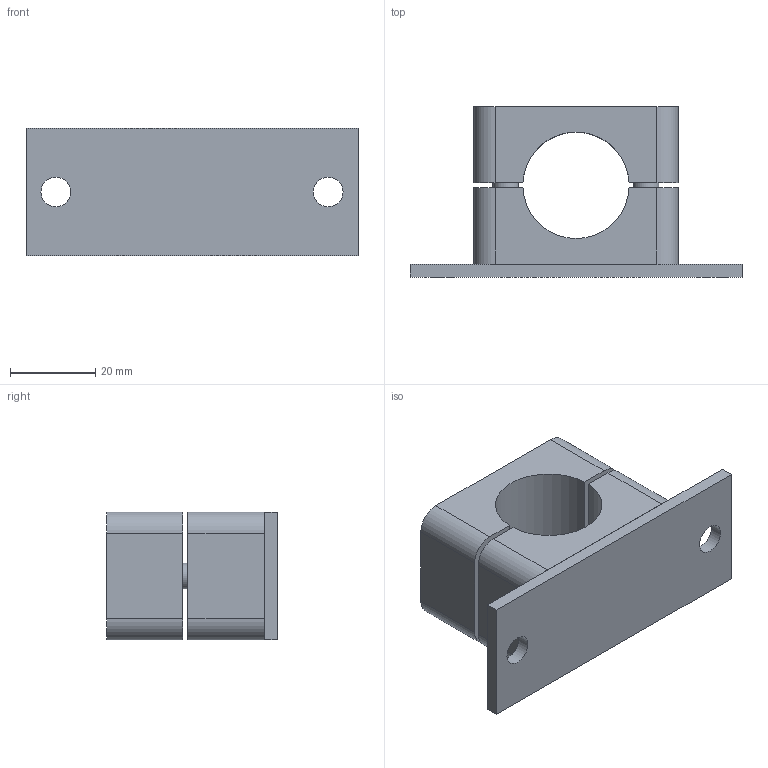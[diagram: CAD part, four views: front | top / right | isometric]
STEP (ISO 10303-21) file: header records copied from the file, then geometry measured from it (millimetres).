
FILE_DESCRIPTION(('HOOPS Exchange Step'),'2;1');
FILE_NAME('/private/var/mobile/Containers/Data/Application/1606885C-1F6A-4C16-ADE5-2EBBFD4A2795/tmp/export/temp_export','2024-08-12T09:10:00+02:00',('mobile'),('Shapr3D Limited'),'HOOPS Exchange 2024.2','Shapr3D','Authorized');
FILE_SCHEMA( ('AP242_MANAGED_MODEL_BASED_3D_ENGINEERING_MIM_LF {1 0 10303 442 1 1 4 }') );
Length unit declared in the file: millimetre
Products named in the file (2): HYDAC-Gr 3_25-2.X_T; root
Assembly tree (1 placements, depth 2):
  root
    HYDAC-Gr 3_25-2.X_T
Bounding box: 78 x 40.1 x 30 mm (x, y, z)
Volume: 42689.6 mm3; surface area: 17121.3 mm2
Topology: 1 solids, 1 shells, 66 faces, 164 edges, 112 vertices
Faces by surface type: plane 40, cylinder 22, cone 2, torus 2
Full cylindrical faces by diameter (mm): 6 x4, 7 x2, 10 x2, 11 x2, 12.5 x2
Entity records: 2142 total; most frequent: DIRECTION 366, CARTESIAN_POINT 346, ORIENTED_EDGE 328, EDGE_CURVE 164, AXIS2_PLACEMENT_3D 132, VERTEX_POINT 112, VECTOR 102, LINE 102
